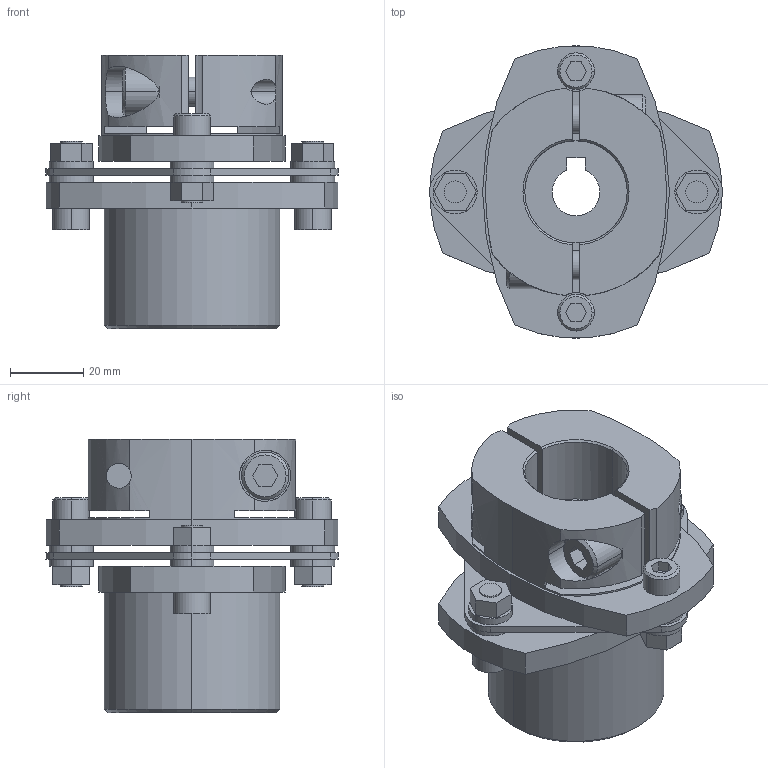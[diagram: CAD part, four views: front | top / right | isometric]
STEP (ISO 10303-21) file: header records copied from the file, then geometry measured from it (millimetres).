
FILE_DESCRIPTION((''),'2;1');
FILE_NAME('LCS-80M-16L亊28B.stp','2011-08-20T16:15:41',(''),(''),'AutoCAD STEP 2000i','AutoCAD 2000i',', , ');
FILE_SCHEMA(('CONFIG_CONTROL_DESIGN'));
Length unit declared in the file: millimetre
Products named in the file (8): LCS-80M-16L×28B; 忣兜1; LC80-B028; LC80-B020; LC80M-L016; LC80-B015-1; LC80-B015; LCS80-ITA
Assembly tree (7 placements, depth 2):
  LCS-80M-16L×28B
    忣兜1
    LC80-B028
    LC80-B020
    LC80M-L016
    LC80-B015-1
    LC80-B015
    LCS80-ITA
Bounding box: 80 x 79.95 x 74.75 mm (x, y, z)
Volume: 135715.8 mm3; surface area: 41145.8 mm2
Topology: 1 solids, 1 shells, 230 faces, 580 edges, 382 vertices
Faces by surface type: plane 115, cylinder 96, cone 19
Entity records: 7429 total; most frequent: CARTESIAN_POINT 1504, DIRECTION 1256, ORIENTED_EDGE 1160, EDGE_CURVE 580, AXIS2_PLACEMENT_3D 460, VERTEX_POINT 382, VECTOR 336, LINE 336
